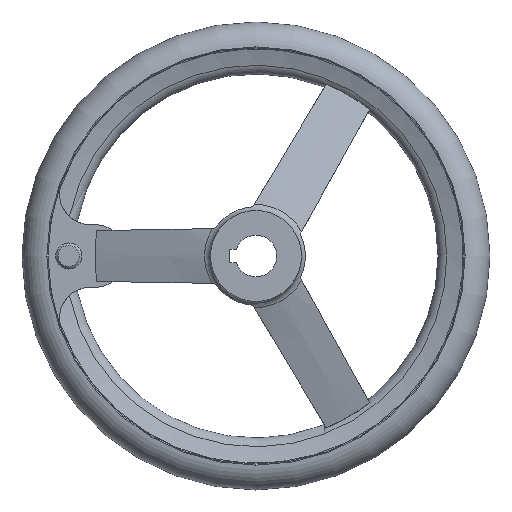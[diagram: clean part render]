
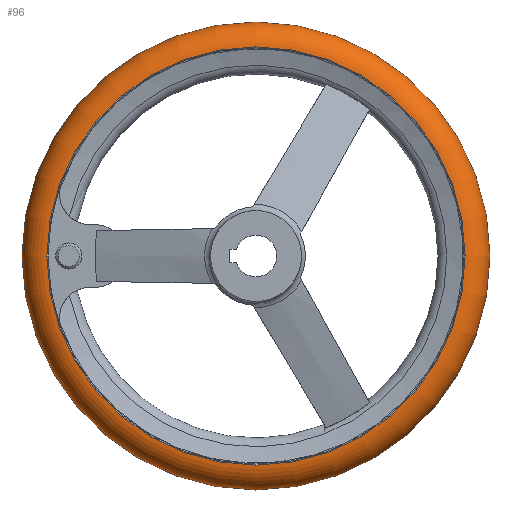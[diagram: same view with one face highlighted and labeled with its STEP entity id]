
A CAD part, left-side view. The second image highlights one B-rep face of the part: STEP entity #96.
In plain terms, the highlighted toroidal (fillet/blend) face has major radius 79.991 mm and minor radius 10.009 mm.
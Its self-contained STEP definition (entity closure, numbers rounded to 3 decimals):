
#96 = ADVANCED_FACE( '', ( #183, #184, #185 ), #186, .T. );
#183 = FACE_BOUND( '', #344, .T. );
#184 = FACE_OUTER_BOUND( '', #345, .T. );
#185 = FACE_OUTER_BOUND( '', #346, .T. );
#186 = TOROIDAL_SURFACE( '', #347, 79.991, 10.009 );
#344 = VERTEX_LOOP( '', #593 );
#345 = EDGE_LOOP( '', ( #594 ) );
#346 = EDGE_LOOP( '', ( #595 ) );
#347 = AXIS2_PLACEMENT_3D( '', #596, #597, #598 );
#593 = VERTEX_POINT( '', #896 );
#594 = ORIENTED_EDGE( '', *, *, #897, .T. );
#595 = ORIENTED_EDGE( '', *, *, #898, .F. );
#596 = CARTESIAN_POINT( '', ( 33., 0., 0. ) );
#597 = DIRECTION( '', ( 1., 0., 0. ) );
#598 = DIRECTION( '', ( 0., 1., 0. ) );
#896 = CARTESIAN_POINT( '', ( 33., 90., 0. ) );
#897 = EDGE_CURVE( '', #1088, #1088, #1089, .T. );
#898 = EDGE_CURVE( '', #1090, #1090, #1091, .T. );
#1088 = VERTEX_POINT( '', #1678 );
#1089 = CIRCLE( '', #1679, 80.417 );
#1090 = VERTEX_POINT( '', #1680 );
#1091 = CIRCLE( '', #1681, 80.417 );
#1678 = CARTESIAN_POINT( '', ( 23., 80.417, 0. ) );
#1679 = AXIS2_PLACEMENT_3D( '', #1919, #1920, #1921 );
#1680 = CARTESIAN_POINT( '', ( 43., 80.417, 0. ) );
#1681 = AXIS2_PLACEMENT_3D( '', #1922, #1923, #1924 );
#1919 = CARTESIAN_POINT( '', ( 23., 0., 0. ) );
#1920 = DIRECTION( '', ( 1., 0., 0. ) );
#1921 = DIRECTION( '', ( 0., 1., 0. ) );
#1922 = CARTESIAN_POINT( '', ( 43., 0., 0. ) );
#1923 = DIRECTION( '', ( 1., 0., 0. ) );
#1924 = DIRECTION( '', ( 0., 1., 0. ) );
